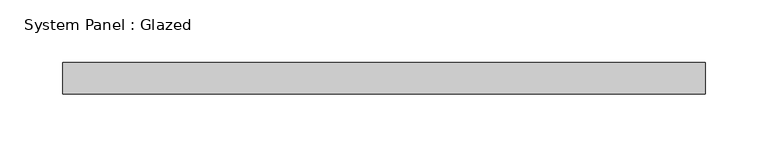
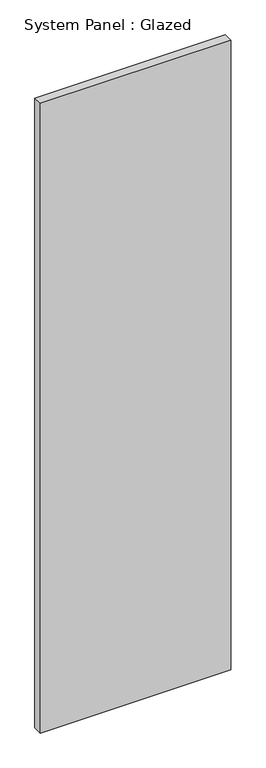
"""IFC4 building model written with IfcOpenShell, lengths in millimetres: plate geometry, System Panel : Glazed."""

from ifc_helpers import new_model, si_unit, origin, origin_with_axes, place, context, project, spatial, polyline, outline, extrude, source, transform, mapped, element, save


def system_panel_glazed_db8a70c9(model_context):
    return source(origin(), model_context, "Body", "SweptSolid", [
        extrude(outline(polyline([(257.175, -44.45), (-257.175, -44.45), (-257.175, -19.05), (257.175, -19.05), (257.175, -44.45)])), origin_with_axes(), (0.0, 0.0, 1.0), 1797.05),
    ])


if __name__ == "__main__":
    model = new_model("IFC4")
    model_context = context("Model", 3, world=origin())
    ifc_project = project(units=[si_unit("LENGTHUNIT", "METRE", prefix="MILLI")], contexts=[model_context])
    site = spatial("IfcSite", under=ifc_project)
    building = spatial("IfcBuilding", under=site)
    placement = place(None, origin())
    system_panel_glazed_shape = system_panel_glazed_db8a70c9(model_context)
    element("IfcPlate", 1, ObjectType="System Panel : Glazed", at=placement, inside=building, context=model_context, shape_type="MappedRepresentation", body=[
        mapped(system_panel_glazed_shape, transform((0.0, 0.0, 0.0), x_axis=(1.0, 0.0, 0.0), y_axis=(0.0, 1.0, 0.0), z_axis=(0.0, 0.0, 1.0))),
    ])
    save(model, "model.ifc")
